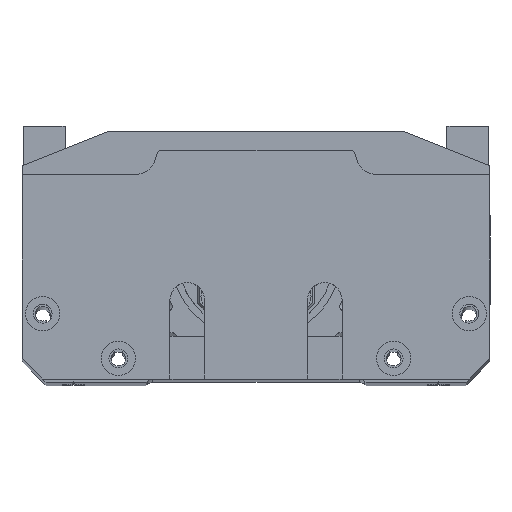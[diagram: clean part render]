
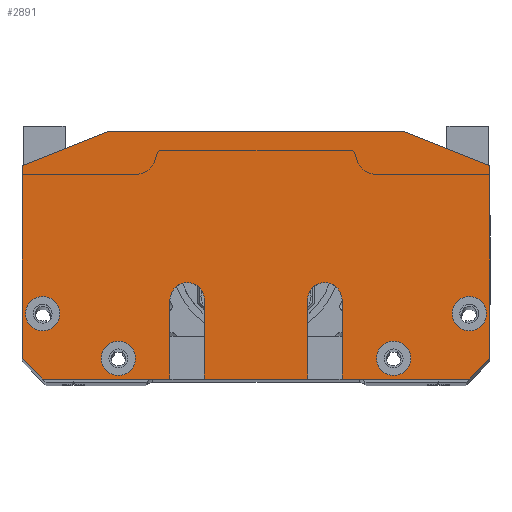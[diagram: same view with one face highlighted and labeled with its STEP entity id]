
A CAD part, top view. The second image highlights one B-rep face of the part: STEP entity #2891.
In plain terms, the highlighted planar face has unit normal (0, 0, 1).
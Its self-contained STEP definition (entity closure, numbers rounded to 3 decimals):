
#891=FACE_BOUND('',#5055,.T.);
#892=FACE_BOUND('',#5056,.T.);
#893=FACE_BOUND('',#5057,.T.);
#894=FACE_BOUND('',#5058,.T.);
#895=FACE_BOUND('',#5059,.T.);
#1999=CIRCLE('',#17937,5.);
#2001=CIRCLE('',#17942,5.);
#2019=CIRCLE('',#17974,5.);
#2020=CIRCLE('',#17975,5.);
#2021=CIRCLE('',#17976,5.);
#2022=CIRCLE('',#17977,5.);
#2891=ADVANCED_FACE('9',(#891,#892,#893,#894,#895),#3486,.T.);
#3486=PLANE('',#17978);
#5055=EDGE_LOOP('',(#8752,#8753,#8754,#8755,#8756,#8757,#8758,#8759,#8760,
#8761,#8762,#8763,#8764,#8765,#8766,#8767));
#5056=EDGE_LOOP('',(#8768));
#5057=EDGE_LOOP('',(#8769));
#5058=EDGE_LOOP('',(#8770));
#5059=EDGE_LOOP('',(#8771));
#8752=ORIENTED_EDGE('',*,*,#13591,.T.);
#8753=ORIENTED_EDGE('',*,*,#13593,.T.);
#8754=ORIENTED_EDGE('',*,*,#13587,.T.);
#8755=ORIENTED_EDGE('',*,*,#12626,.F.);
#8756=ORIENTED_EDGE('',*,*,#13599,.T.);
#8757=ORIENTED_EDGE('',*,*,#13601,.T.);
#8758=ORIENTED_EDGE('',*,*,#13595,.T.);
#8759=ORIENTED_EDGE('',*,*,#12623,.F.);
#8760=ORIENTED_EDGE('',*,*,#12636,.T.);
#8761=ORIENTED_EDGE('',*,*,#12663,.F.);
#8762=ORIENTED_EDGE('',*,*,#13610,.T.);
#8763=ORIENTED_EDGE('',*,*,#13632,.F.);
#8764=ORIENTED_EDGE('',*,*,#13613,.T.);
#8765=ORIENTED_EDGE('',*,*,#12587,.F.);
#8766=ORIENTED_EDGE('',*,*,#12614,.T.);
#8767=ORIENTED_EDGE('',*,*,#12629,.F.);
#8768=ORIENTED_EDGE('',*,*,#13633,.F.);
#8769=ORIENTED_EDGE('',*,*,#13634,.F.);
#8770=ORIENTED_EDGE('',*,*,#13635,.F.);
#8771=ORIENTED_EDGE('',*,*,#13636,.F.);
#10805=VERTEX_POINT('',#25083);
#10806=VERTEX_POINT('',#25085);
#10822=VERTEX_POINT('',#25136);
#10824=VERTEX_POINT('',#25150);
#10825=VERTEX_POINT('',#25152);
#10826=VERTEX_POINT('',#25155);
#10827=VERTEX_POINT('',#25157);
#10828=VERTEX_POINT('',#25160);
#10833=VERTEX_POINT('',#25175);
#10851=VERTEX_POINT('',#25222);
#11405=VERTEX_POINT('',#29049);
#11407=VERTEX_POINT('',#29055);
#11409=VERTEX_POINT('',#29064);
#11411=VERTEX_POINT('',#29070);
#11420=VERTEX_POINT('',#29095);
#11422=VERTEX_POINT('',#29101);
#11432=VERTEX_POINT('',#29141);
#11433=VERTEX_POINT('',#29143);
#11434=VERTEX_POINT('',#29145);
#11435=VERTEX_POINT('',#29147);
#12587=EDGE_CURVE('',#10805,#10806,#14662,.T.);
#12614=EDGE_CURVE('',#10805,#10822,#14679,.T.);
#12623=EDGE_CURVE('',#10824,#10825,#14688,.T.);
#12626=EDGE_CURVE('',#10826,#10827,#14691,.T.);
#12629=EDGE_CURVE('',#10828,#10822,#14694,.T.);
#12636=EDGE_CURVE('',#10824,#10833,#14701,.T.);
#12663=EDGE_CURVE('',#10851,#10833,#14726,.T.);
#13587=EDGE_CURVE('',#11405,#10827,#15172,.T.);
#13591=EDGE_CURVE('',#10828,#11407,#15176,.T.);
#13593=EDGE_CURVE('',#11407,#11405,#1999,.T.);
#13595=EDGE_CURVE('',#11409,#10825,#15178,.T.);
#13599=EDGE_CURVE('',#10826,#11411,#15182,.T.);
#13601=EDGE_CURVE('',#11411,#11409,#2001,.T.);
#13610=EDGE_CURVE('',#10851,#11420,#15187,.T.);
#13613=EDGE_CURVE('',#11422,#10806,#15190,.T.);
#13632=EDGE_CURVE('',#11422,#11420,#15196,.T.);
#13633=EDGE_CURVE('',#11432,#11432,#2019,.T.);
#13634=EDGE_CURVE('',#11433,#11433,#2020,.T.);
#13635=EDGE_CURVE('',#11434,#11434,#2021,.T.);
#13636=EDGE_CURVE('',#11435,#11435,#2022,.T.);
#14662=LINE('',#25084,#15908);
#14679=LINE('',#25137,#15925);
#14688=LINE('',#25151,#15934);
#14691=LINE('',#25156,#15937);
#14694=LINE('',#25161,#15940);
#14701=LINE('',#25176,#15947);
#14726=LINE('',#25223,#15972);
#15172=LINE('',#29048,#16418);
#15176=LINE('',#29056,#16422);
#15178=LINE('',#29063,#16424);
#15182=LINE('',#29071,#16428);
#15187=LINE('',#29094,#16433);
#15190=LINE('',#29100,#16436);
#15196=LINE('',#29139,#16442);
#15908=VECTOR('',#19638,1.);
#15925=VECTOR('',#19693,1.);
#15934=VECTOR('',#19708,1.);
#15937=VECTOR('',#19711,1.);
#15940=VECTOR('',#19714,1.);
#15947=VECTOR('',#19727,1.);
#15972=VECTOR('',#19760,1.);
#16418=VECTOR('',#21726,1.);
#16422=VECTOR('',#21732,1.);
#16424=VECTOR('',#21742,1.);
#16428=VECTOR('',#21748,1.);
#16433=VECTOR('',#21773,1.);
#16436=VECTOR('',#21778,1.);
#16442=VECTOR('',#21830,1.);
#17937=AXIS2_PLACEMENT_3D('',#29059,#21737,#21738);
#17942=AXIS2_PLACEMENT_3D('',#29074,#21753,#21754);
#17974=AXIS2_PLACEMENT_3D('',#29140,#21831,#21832);
#17975=AXIS2_PLACEMENT_3D('',#29142,#21833,#21834);
#17976=AXIS2_PLACEMENT_3D('',#29144,#21835,#21836);
#17977=AXIS2_PLACEMENT_3D('',#29146,#21837,#21838);
#17978=AXIS2_PLACEMENT_3D('',#29148,#21839,#21840);
#19638=DIRECTION('',(0.,1.,0.));
#19693=DIRECTION('',(0.707,-0.707,0.));
#19708=DIRECTION('',(-1.,0.,0.));
#19711=DIRECTION('',(-1.,0.,0.));
#19714=DIRECTION('',(-1.,0.,0.));
#19727=DIRECTION('',(0.707,0.707,0.));
#19760=DIRECTION('',(0.,-1.,0.));
#21726=DIRECTION('',(0.,-1.,0.));
#21732=DIRECTION('',(0.,1.,0.));
#21737=DIRECTION('',(0.,0.,-1.));
#21738=DIRECTION('',(1.,0.,0.));
#21742=DIRECTION('',(0.,-1.,0.));
#21748=DIRECTION('',(0.,1.,0.));
#21753=DIRECTION('',(0.,0.,-1.));
#21754=DIRECTION('',(-1.,0.,0.));
#21773=DIRECTION('',(-0.928,0.371,0.));
#21778=DIRECTION('',(-0.928,-0.371,0.));
#21830=DIRECTION('',(1.,0.,0.));
#21831=DIRECTION('',(0.,0.,1.));
#21832=DIRECTION('',(1.,0.,0.));
#21833=DIRECTION('',(0.,0.,1.));
#21834=DIRECTION('',(1.,0.,0.));
#21835=DIRECTION('',(0.,0.,1.));
#21836=DIRECTION('',(1.,0.,0.));
#21837=DIRECTION('',(0.,0.,1.));
#21838=DIRECTION('',(1.,0.,0.));
#21839=DIRECTION('',(0.,0.,1.));
#21840=DIRECTION('',(-1.,0.,0.));
#25083=CARTESIAN_POINT('',(-68.,6.,382.));
#25084=CARTESIAN_POINT('',(-68.,0.,382.));
#25085=CARTESIAN_POINT('',(-68.,62.,382.));
#25136=CARTESIAN_POINT('',(-62.,0.,382.));
#25137=CARTESIAN_POINT('',(-49.,-13.,382.));
#25150=CARTESIAN_POINT('',(62.,0.,382.));
#25151=CARTESIAN_POINT('',(68.,0.,382.));
#25152=CARTESIAN_POINT('',(25.,0.,382.));
#25155=CARTESIAN_POINT('',(15.,0.,382.));
#25156=CARTESIAN_POINT('',(68.,0.,382.));
#25157=CARTESIAN_POINT('',(-15.,0.,382.));
#25160=CARTESIAN_POINT('',(-25.,0.,382.));
#25161=CARTESIAN_POINT('',(68.,0.,382.));
#25175=CARTESIAN_POINT('',(68.,6.,382.));
#25176=CARTESIAN_POINT('',(49.,-13.,382.));
#25222=CARTESIAN_POINT('',(68.,62.,382.));
#25223=CARTESIAN_POINT('',(68.,0.,382.));
#29048=CARTESIAN_POINT('',(-15.,23.,382.));
#29049=CARTESIAN_POINT('',(-15.,23.,382.));
#29055=CARTESIAN_POINT('',(-25.,23.,382.));
#29056=CARTESIAN_POINT('',(-25.,23.,382.));
#29059=CARTESIAN_POINT('',(-20.,23.,382.));
#29063=CARTESIAN_POINT('',(25.,23.,382.));
#29064=CARTESIAN_POINT('',(25.,23.,382.));
#29070=CARTESIAN_POINT('',(15.,23.,382.));
#29071=CARTESIAN_POINT('',(15.,23.,382.));
#29074=CARTESIAN_POINT('',(20.,23.,382.));
#29094=CARTESIAN_POINT('',(18.345,81.862,382.));
#29095=CARTESIAN_POINT('',(43.,72.,382.));
#29100=CARTESIAN_POINT('',(-18.345,81.862,382.));
#29101=CARTESIAN_POINT('',(-43.,72.,382.));
#29139=CARTESIAN_POINT('',(68.,72.,382.));
#29140=CARTESIAN_POINT('',(-62.,19.,382.));
#29141=CARTESIAN_POINT('',(-57.,19.,382.));
#29142=CARTESIAN_POINT('',(62.,19.,382.));
#29143=CARTESIAN_POINT('',(67.,19.,382.));
#29144=CARTESIAN_POINT('',(-40.,6.,382.));
#29145=CARTESIAN_POINT('',(-35.,6.,382.));
#29146=CARTESIAN_POINT('',(40.,6.,382.));
#29147=CARTESIAN_POINT('',(45.,6.,382.));
#29148=CARTESIAN_POINT('',(0.,36.,382.));
